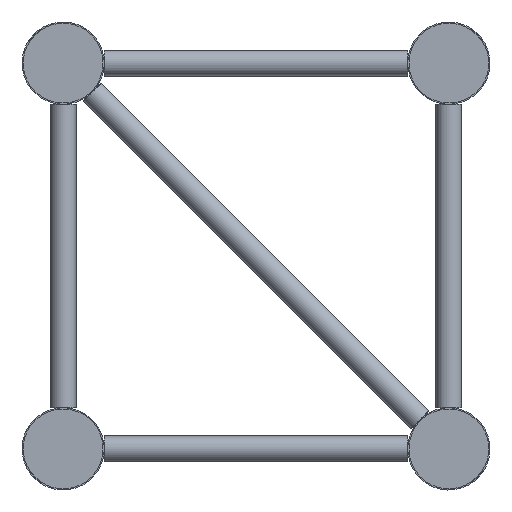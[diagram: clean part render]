
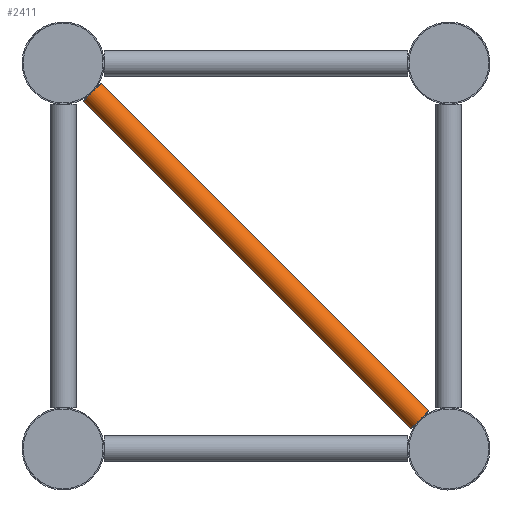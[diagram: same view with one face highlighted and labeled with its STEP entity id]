
A CAD part, left-side view. The second image highlights one B-rep face of the part: STEP entity #2411.
In plain terms, the highlighted cylindrical face has radius 8 mm (diameter 16 mm), a full revolution.
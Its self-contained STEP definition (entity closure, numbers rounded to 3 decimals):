
#95=B_SPLINE_CURVE_WITH_KNOTS('',3,(#3889,#3890,#3891,#3892,#3893,#3894),
 .UNSPECIFIED.,.F.,.F.,(4,2,4),(1.187,1.214,1.242),
 .UNSPECIFIED.);
#97=B_SPLINE_CURVE_WITH_KNOTS('',3,(#3907,#3908,#3909,#3910,#3911,#3912),
 .UNSPECIFIED.,.F.,.F.,(4,2,4),(3.616,3.643,3.67),
 .UNSPECIFIED.);
#104=B_SPLINE_CURVE_WITH_KNOTS('',3,(#4034,#4035,#4036,#4037,#4038,#4039),
 .UNSPECIFIED.,.F.,.F.,(4,2,4),(1.187,1.214,1.242),
 .UNSPECIFIED.);
#105=B_SPLINE_CURVE_WITH_KNOTS('',3,(#4043,#4044,#4045,#4046,#4047,#4048),
 .UNSPECIFIED.,.F.,.F.,(4,2,4),(3.616,3.643,3.67),
 .UNSPECIFIED.);
#270=CYLINDRICAL_SURFACE('',#2636,8.);
#370=FACE_BOUND('',#727,.T.);
#490=FACE_OUTER_BOUND('',#726,.T.);
#726=EDGE_LOOP('',(#1658,#1659,#1660,#1661));
#727=EDGE_LOOP('',(#1662,#1663,#1664,#1665));
#964=CIRCLE('',#2635,8.);
#965=CIRCLE('',#2637,8.);
#966=CIRCLE('',#2638,8.);
#967=CIRCLE('',#2639,8.);
#1112=VERTEX_POINT('',#3886);
#1113=VERTEX_POINT('',#3888);
#1116=VERTEX_POINT('',#3904);
#1117=VERTEX_POINT('',#3906);
#1130=VERTEX_POINT('',#4032);
#1131=VERTEX_POINT('',#4033);
#1132=VERTEX_POINT('',#4040);
#1133=VERTEX_POINT('',#4042);
#1292=EDGE_CURVE('',#1113,#1112,#95,.T.);
#1296=EDGE_CURVE('',#1117,#1116,#97,.T.);
#1314=EDGE_CURVE('',#1112,#1117,#964,.T.);
#1315=EDGE_CURVE('',#1130,#1131,#104,.T.);
#1316=EDGE_CURVE('',#1131,#1132,#965,.T.);
#1317=EDGE_CURVE('',#1132,#1133,#105,.T.);
#1318=EDGE_CURVE('',#1133,#1130,#966,.T.);
#1319=EDGE_CURVE('',#1116,#1113,#967,.T.);
#1658=ORIENTED_EDGE('',*,*,#1315,.T.);
#1659=ORIENTED_EDGE('',*,*,#1316,.T.);
#1660=ORIENTED_EDGE('',*,*,#1317,.T.);
#1661=ORIENTED_EDGE('',*,*,#1318,.T.);
#1662=ORIENTED_EDGE('',*,*,#1292,.T.);
#1663=ORIENTED_EDGE('',*,*,#1314,.T.);
#1664=ORIENTED_EDGE('',*,*,#1296,.T.);
#1665=ORIENTED_EDGE('',*,*,#1319,.T.);
#2411=ADVANCED_FACE('',(#490,#370),#270,.T.);
#2635=AXIS2_PLACEMENT_3D('',#4030,#3091,#3092);
#2636=AXIS2_PLACEMENT_3D('',#4031,#3093,#3094);
#2637=AXIS2_PLACEMENT_3D('',#4041,#3095,#3096);
#2638=AXIS2_PLACEMENT_3D('',#4049,#3097,#3098);
#2639=AXIS2_PLACEMENT_3D('',#4050,#3099,#3100);
#3091=DIRECTION('center_axis',(0.,-0.707,
-0.707));
#3092=DIRECTION('ref_axis',(0.,0.707,-0.707));
#3093=DIRECTION('center_axis',(0.,0.707,
0.707));
#3094=DIRECTION('ref_axis',(0.,0.707,-0.707));
#3095=DIRECTION('center_axis',(0.,0.707,
0.707));
#3096=DIRECTION('ref_axis',(0.,0.707,-0.707));
#3097=DIRECTION('center_axis',(0.,0.707,
0.707));
#3098=DIRECTION('ref_axis',(0.,0.707,-0.707));
#3099=DIRECTION('center_axis',(0.,-0.707,
-0.707));
#3100=DIRECTION('ref_axis',(0.,0.707,-0.707));
#3886=CARTESIAN_POINT('',(67.995,220.776,-17.836));
#3888=CARTESIAN_POINT('',(67.995,221.164,-18.224));
#3889=CARTESIAN_POINT('Ctrl Pts',(67.995,221.164,-18.224));
#3890=CARTESIAN_POINT('Ctrl Pts',(67.998,221.098,-18.16));
#3891=CARTESIAN_POINT('Ctrl Pts',(68.,221.033,-18.096));
#3892=CARTESIAN_POINT('Ctrl Pts',(68.,220.904,-17.967));
#3893=CARTESIAN_POINT('Ctrl Pts',(67.998,220.84,-17.902));
#3894=CARTESIAN_POINT('Ctrl Pts',(67.995,220.776,-17.836));
#3904=CARTESIAN_POINT('',(52.005,221.164,-18.224));
#3906=CARTESIAN_POINT('',(52.005,220.776,-17.836));
#3907=CARTESIAN_POINT('Ctrl Pts',(52.005,220.776,-17.836));
#3908=CARTESIAN_POINT('Ctrl Pts',(52.002,220.84,-17.902));
#3909=CARTESIAN_POINT('Ctrl Pts',(52.,220.904,-17.967));
#3910=CARTESIAN_POINT('Ctrl Pts',(52.,221.033,-18.096));
#3911=CARTESIAN_POINT('Ctrl Pts',(52.002,221.098,-18.16));
#3912=CARTESIAN_POINT('Ctrl Pts',(52.005,221.164,-18.224));
#4030=CARTESIAN_POINT('Origin',(60.,220.97,-18.03));
#4031=CARTESIAN_POINT('Origin',(60.,119.5,-119.5));
#4032=CARTESIAN_POINT('',(52.005,18.224,-221.164));
#4033=CARTESIAN_POINT('',(52.005,17.836,-220.776));
#4034=CARTESIAN_POINT('Ctrl Pts',(52.005,18.224,-221.164));
#4035=CARTESIAN_POINT('Ctrl Pts',(52.002,18.16,-221.098));
#4036=CARTESIAN_POINT('Ctrl Pts',(52.,18.096,-221.033));
#4037=CARTESIAN_POINT('Ctrl Pts',(52.,17.967,-220.904));
#4038=CARTESIAN_POINT('Ctrl Pts',(52.002,17.902,-220.84));
#4039=CARTESIAN_POINT('Ctrl Pts',(52.005,17.836,-220.776));
#4040=CARTESIAN_POINT('',(67.995,17.836,-220.776));
#4041=CARTESIAN_POINT('Origin',(60.,18.03,-220.97));
#4042=CARTESIAN_POINT('',(67.995,18.224,-221.164));
#4043=CARTESIAN_POINT('Ctrl Pts',(67.995,17.836,-220.776));
#4044=CARTESIAN_POINT('Ctrl Pts',(67.998,17.902,-220.84));
#4045=CARTESIAN_POINT('Ctrl Pts',(68.,17.967,-220.904));
#4046=CARTESIAN_POINT('Ctrl Pts',(68.,18.096,-221.033));
#4047=CARTESIAN_POINT('Ctrl Pts',(67.998,18.16,-221.098));
#4048=CARTESIAN_POINT('Ctrl Pts',(67.995,18.224,-221.164));
#4049=CARTESIAN_POINT('Origin',(60.,18.03,-220.97));
#4050=CARTESIAN_POINT('Origin',(60.,220.97,-18.03));
